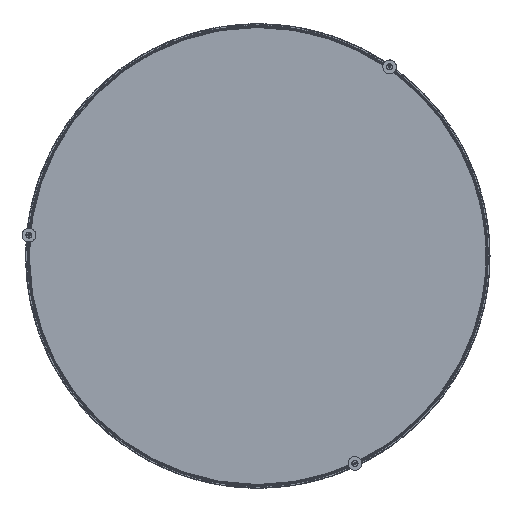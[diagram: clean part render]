
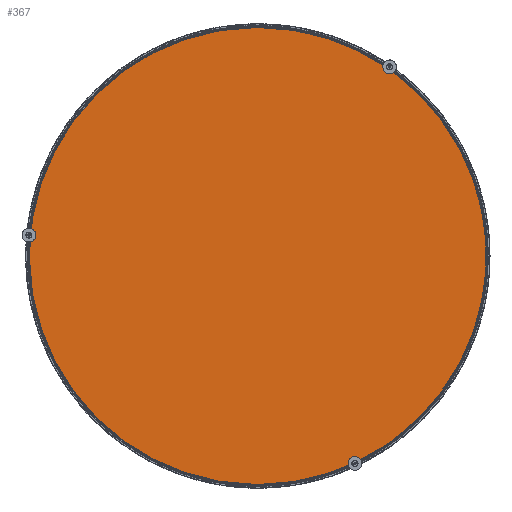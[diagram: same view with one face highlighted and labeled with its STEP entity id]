
A CAD part, top view. The second image highlights one B-rep face of the part: STEP entity #367.
In plain terms, the highlighted planar face has unit normal (0, 0, 1) as drawn and (0, 1, 0) by its records, which use the part's own axes.
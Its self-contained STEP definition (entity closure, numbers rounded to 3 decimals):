
#367=ADVANCED_FACE('',(#617),#3786,.T.);
#617=FACE_OUTER_BOUND('',#879,.T.);
#879=EDGE_LOOP('',(#2107,#2108));
#2107=ORIENTED_EDGE('',*,*,#2724,.F.);
#2108=ORIENTED_EDGE('',*,*,#2720,.F.);
#2720=EDGE_CURVE('',#3716,#3717,#3337,.T.);
#2724=EDGE_CURVE('',#3717,#3716,#3339,.T.);
#3337=(
BOUNDED_CURVE()
B_SPLINE_CURVE(2,(#15074,#15075,#15076,#15077,#15078),.UNSPECIFIED.,.F.,
 .F.)
B_SPLINE_CURVE_WITH_KNOTS((3,2,3),(0.,761.051,1522.102),
 .UNSPECIFIED.)
CURVE()
GEOMETRIC_REPRESENTATION_ITEM()
RATIONAL_B_SPLINE_CURVE((1.,0.707,1.,0.707,1.))
REPRESENTATION_ITEM('')
);
#3339=(
BOUNDED_CURVE()
B_SPLINE_CURVE(2,(#15088,#15089,#15090,#15091,#15092),.UNSPECIFIED.,.F.,
 .F.)
B_SPLINE_CURVE_WITH_KNOTS((3,2,3),(0.,761.051,1522.102),
 .UNSPECIFIED.)
CURVE()
GEOMETRIC_REPRESENTATION_ITEM()
RATIONAL_B_SPLINE_CURVE((1.,0.707,1.,0.707,1.))
REPRESENTATION_ITEM('')
);
#3716=VERTEX_POINT('',#15070);
#3717=VERTEX_POINT('',#15071);
#3786=PLANE('',#4287);
#4287=AXIS2_PLACEMENT_3D('',#15068,#4415,$);
#4415=DIRECTION('',(0.,1.,0.));
#15068=CARTESIAN_POINT('',(-581.4,5.5,-581.4));
#15070=CARTESIAN_POINT('',(0.,5.5,-484.5));
#15071=CARTESIAN_POINT('',(0.,5.5,484.5));
#15074=CARTESIAN_POINT('',(0.,5.5,-484.5));
#15075=CARTESIAN_POINT('',(484.5,5.5,-484.5));
#15076=CARTESIAN_POINT('',(484.5,5.5,0.));
#15077=CARTESIAN_POINT('',(484.5,5.5,484.5));
#15078=CARTESIAN_POINT('',(0.,5.5,484.5));
#15088=CARTESIAN_POINT('',(0.,5.5,484.5));
#15089=CARTESIAN_POINT('',(-484.5,5.5,484.5));
#15090=CARTESIAN_POINT('',(-484.5,5.5,0.));
#15091=CARTESIAN_POINT('',(-484.5,5.5,-484.5));
#15092=CARTESIAN_POINT('',(0.,5.5,-484.5));
